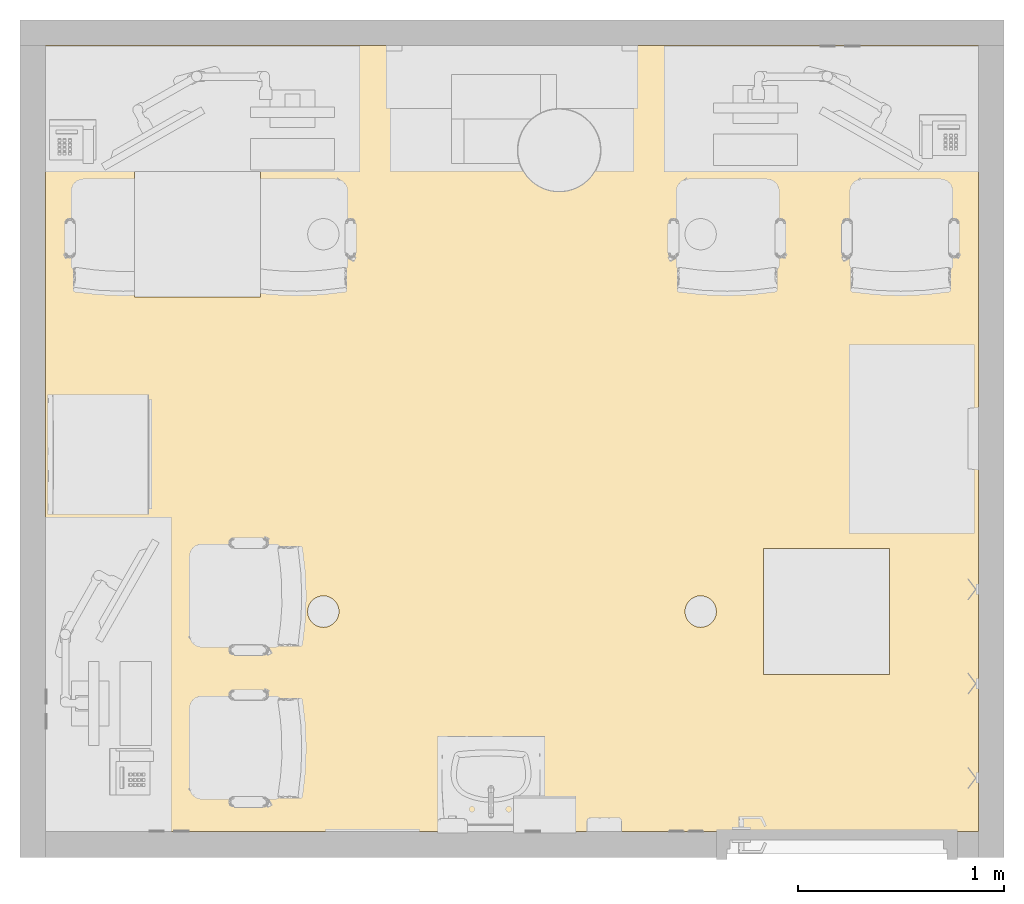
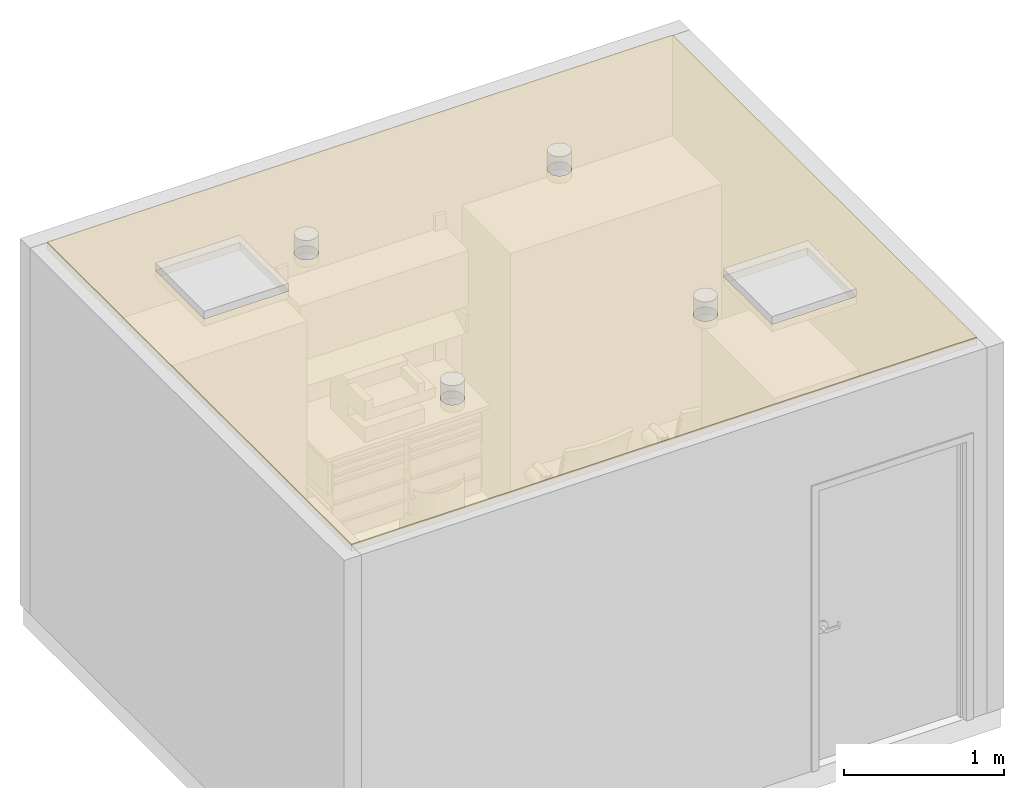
# One storey, part 3 of 15: 1 covering.
"""IFC2X3 building model written with IfcOpenShell, lengths in feet."""

from ifc_helpers import new_model, entity, si_unit, converted_unit, derived_unit, direction, frame, frame_2d, origin, place, context, subcontext, project, spatial, polyline, circle_curve, parameter, trimmed, segment, composite_curve, outline, extrude, material, layer, layer_set, layer_usage, element, save


model = new_model("IFC2X3")

# Units and contexts
model_context = context("Model", 3, precision=0.0001, world=origin(), true_north=direction((6.12303176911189e-17, 1.0)))
body_context = subcontext(model_context, "Body", "Model", "MODEL_VIEW")
ifc_project = project(units=[converted_unit("LENGTHUNIT", "FOOT", entity("IfcRatioMeasure", 0.3048), si_unit("LENGTHUNIT", "METRE"), dimensions=[1, 0, 0, 0, 0, 0, 0]), converted_unit("AREAUNIT", "SQUARE FOOT", entity("IfcRatioMeasure", 0.09290304), si_unit("AREAUNIT", "SQUARE_METRE"), dimensions=[2, 0, 0, 0, 0, 0, 0]), converted_unit("VOLUMEUNIT", "CUBIC FOOT", entity("IfcRatioMeasure", 0.028316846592), si_unit("VOLUMEUNIT", "CUBIC_METRE"), dimensions=[3, 0, 0, 0, 0, 0, 0]), converted_unit("PLANEANGLEUNIT", "DEGREE", entity("IfcRatioMeasure", 0.0174532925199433), si_unit("PLANEANGLEUNIT", "RADIAN"), dimensions=[0, 0, 0, 0, 0, 0, 0]), si_unit("MASSUNIT", "GRAM", prefix="KILO"), derived_unit("MASSDENSITYUNIT", [(si_unit("MASSUNIT", "GRAM", prefix="KILO"), 1), (si_unit("LENGTHUNIT", "METRE"), -3)]), si_unit("TIMEUNIT", "SECOND"), si_unit("FREQUENCYUNIT", "HERTZ"), si_unit("THERMODYNAMICTEMPERATUREUNIT", "DEGREE_CELSIUS"), derived_unit("THERMALTRANSMITTANCEUNIT", [(si_unit("MASSUNIT", "GRAM", prefix="KILO"), 1), (si_unit("THERMODYNAMICTEMPERATUREUNIT", "KELVIN"), -1), (si_unit("TIMEUNIT", "SECOND"), -3)]), derived_unit("VOLUMETRICFLOWRATEUNIT", [(si_unit("LENGTHUNIT", "METRE"), 3), (si_unit("TIMEUNIT", "SECOND"), -1)]), si_unit("ELECTRICCURRENTUNIT", "AMPERE"), si_unit("ELECTRICVOLTAGEUNIT", "VOLT"), si_unit("POWERUNIT", "WATT"), si_unit("FORCEUNIT", "NEWTON"), si_unit("ILLUMINANCEUNIT", "LUX"), si_unit("LUMINOUSFLUXUNIT", "LUMEN"), si_unit("LUMINOUSINTENSITYUNIT", "CANDELA"), derived_unit("USERDEFINED", [(si_unit("MASSUNIT", "GRAM", prefix="KILO"), -1), (si_unit("LENGTHUNIT", "METRE"), -2), (si_unit("TIMEUNIT", "SECOND"), 3), (si_unit("LUMINOUSFLUXUNIT", "LUMEN"), 1)]), derived_unit("LINEARVELOCITYUNIT", [(si_unit("LENGTHUNIT", "METRE"), 1), (si_unit("TIMEUNIT", "SECOND"), -1)]), si_unit("PRESSUREUNIT", "PASCAL"), derived_unit("USERDEFINED", [(si_unit("LENGTHUNIT", "METRE"), -2), (si_unit("MASSUNIT", "GRAM", prefix="KILO"), 1), (si_unit("TIMEUNIT", "SECOND"), -2)])], contexts=[model_context])

# Site, building, storey, space
site_placement = place(None, origin())
site = spatial("IfcSite", under=ifc_project, at=site_placement, Name="Default", CompositionType="ELEMENT")
building_placement = place(site_placement, origin())
building = spatial("IfcBuilding", under=site, at=building_placement, Name="EYE CLINIC:  OPTHALMOLOGY AND OPTOMETRY SERVICES (Ch. 233)", CompositionType="ELEMENT")
storey_placement = place(building_placement, origin())
storey = spatial("IfcBuildingStorey", under=building, at=storey_placement, Name="DATUM", CompositionType="ELEMENT", Elevation=0.0)
space_placement = place(storey_placement, origin())
space = spatial("IfcSpace", under=storey, at=space_placement, Name="(OPLV2)", CompositionType="ELEMENT", InteriorOrExteriorSpace="INTERNAL")

# Covering
ifc_material_1 = material(Name="Default")
ifc_layer_1 = layer(ifc_material_1, 0.135416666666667)
ifc_material_2 = material(Name="Acoustic Ceiling Tile 24 x 24")
ifc_layer_2 = layer(ifc_material_2, 0.0520833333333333)
ifc_layer_set = layer_set([ifc_layer_1, ifc_layer_2], Name="Compound Ceiling:2' x 2' ACT System")
ifc_layer_usage = layer_usage(ifc_layer_set, "AXIS3", "POSITIVE", 0.0)
covering_placement = place(space_placement, origin())
element("IfcCovering", 1, at=covering_placement, inside=space, material=ifc_layer_usage, Name="Compound Ceiling:2' x 2' ACT System", ObjectType="Compound Ceiling:2' x 2' ACT System", PredefinedType="CEILING", context=body_context, shape_type="SweptSolid", body=[
    extrude(outline(polyline([(-7.41666666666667, -6.25), (7.41666666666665, -6.25), (7.41666666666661, 6.25), (-7.41666666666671, 6.25), (-7.41666666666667, -6.25)]), holes=[composite_curve([segment(trimmed(circle_curve(frame_2d((3.0, 3.25), x_axis=(1.0, 0.0)), 0.25), [parameter(180.0)], [parameter(360.0)], True, "PARAMETER"), False, "CONTINUOUS"), segment(trimmed(circle_curve(frame_2d((3.0, 3.25), x_axis=(1.0, 0.0)), 0.25), [parameter(0.0)], [parameter(180.0)], True, "PARAMETER"), False, "CONTINUOUS")], self_intersect=False), composite_curve([segment(trimmed(circle_curve(frame_2d((3.0, -2.75000000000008), x_axis=(1.0, 0.0)), 0.25), [parameter(180.0)], [parameter(360.0)], True, "PARAMETER"), False, "CONTINUOUS"), segment(trimmed(circle_curve(frame_2d((3.0, -2.75000000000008), x_axis=(1.0, 0.0)), 0.25), [parameter(0.0)], [parameter(180.0)], True, "PARAMETER"), False, "CONTINUOUS")], self_intersect=False), composite_curve([segment(trimmed(circle_curve(frame_2d((-3.0, 3.24999999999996), x_axis=(1.0, 0.0)), 0.25), [parameter(180.0)], [parameter(360.0)], True, "PARAMETER"), False, "CONTINUOUS"), segment(trimmed(circle_curve(frame_2d((-3.0, 3.24999999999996), x_axis=(1.0, 0.0)), 0.25), [parameter(0.0)], [parameter(180.0)], True, "PARAMETER"), False, "CONTINUOUS")], self_intersect=False), composite_curve([segment(trimmed(circle_curve(frame_2d((-3.0, -2.75000000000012), x_axis=(1.0, 0.0)), 0.25), [parameter(180.0)], [parameter(360.0)], True, "PARAMETER"), False, "CONTINUOUS"), segment(trimmed(circle_curve(frame_2d((-3.0, -2.75000000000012), x_axis=(1.0, 0.0)), 0.25), [parameter(0.0)], [parameter(180.0)], True, "PARAMETER"), False, "CONTINUOUS")], self_intersect=False), polyline([(-6.0, 2.25), (-6.0, 4.25), (-4.0, 4.25000000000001), (-4.0, 2.25000000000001), (-6.0, 2.25)]), polyline([(4.0, -3.75), (4.0, -1.75), (6.0, -1.74999999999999), (6.0, -3.74999999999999), (4.0, -3.75)])]), frame((342.223102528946, 5.05762568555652, 9.0)), (0.0, 0.0, 1.0), 0.1875),
])

save(model, "model.ifc")
